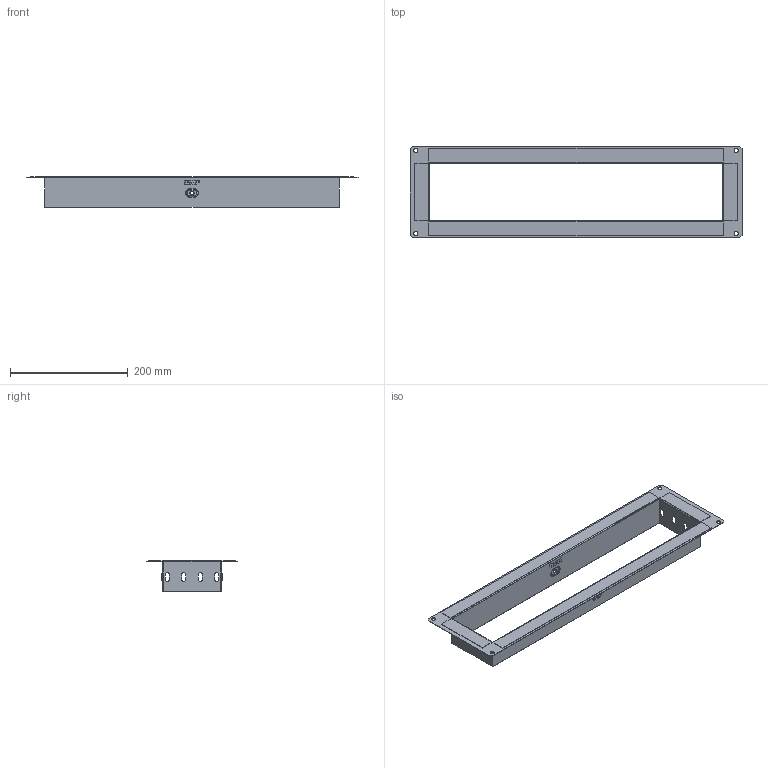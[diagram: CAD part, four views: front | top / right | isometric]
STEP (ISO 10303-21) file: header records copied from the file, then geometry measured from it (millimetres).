
FILE_DESCRIPTION (( 'STEP AP203' ), '1' );
FILE_NAME ('f100500_捘.STEP', '2020-01-23T12:31:20', ( '' ), ( '' ), 'SwSTEP 2.0', 'SolidWorks 2016', '' );
FILE_SCHEMA (( 'CONFIG_CONTROL_DESIGN' ));
Length unit declared in the file: millimetre
Products named in the file (9): f100300_3; f100500_1; f50500_2; f100500_捘
Assembly tree (5 placements, depth 2):
  f100300_3
  f100300_3
  f100500_捘
    f100500_1
    f50500_2  x2
    f100300_3  x2
  f100500_1
  f50500_2
Bounding box: 565 x 155 x 51.5 mm (x, y, z)
Volume: 100426.6 mm3; surface area: 255921.2 mm2
Topology: 5 solids, 5 shells, 326 faces, 852 edges, 552 vertices
Faces by surface type: plane 220, cylinder 72, bspline 18, torus 16
Entity records: 6612 total; most frequent: CARTESIAN_POINT 1418, ORIENTED_EDGE 912, DIRECTION 878, EDGE_CURVE 456, LINE 346, VECTOR 346, VERTEX_POINT 296, AXIS2_PLACEMENT_3D 266
